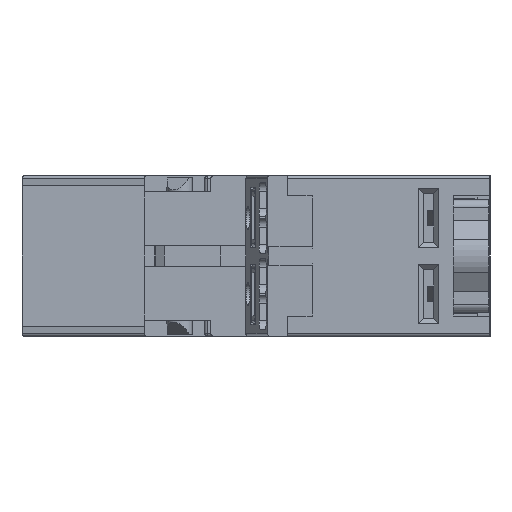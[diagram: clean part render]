
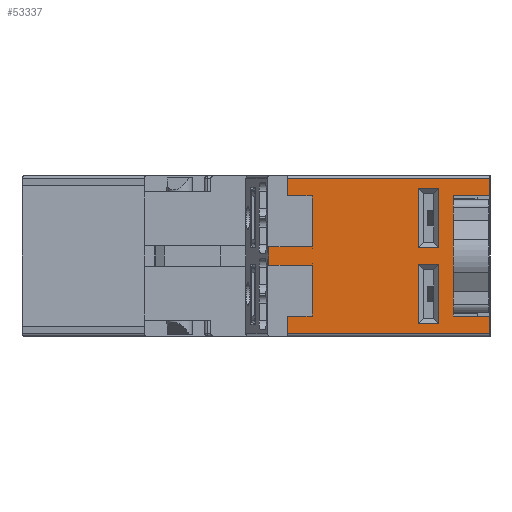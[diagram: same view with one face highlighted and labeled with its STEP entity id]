
A CAD part, left-side view. The second image highlights one B-rep face of the part: STEP entity #53337.
In plain terms, the highlighted planar face has unit normal (-1, 0, 0).
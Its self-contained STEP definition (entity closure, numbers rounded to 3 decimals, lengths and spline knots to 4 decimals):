
#403=FACE_BOUND('',#6901,.T.);
#404=FACE_BOUND('',#6902,.T.);
#4120=FACE_OUTER_BOUND('',#6900,.T.);
#6900=EDGE_LOOP('',(#43147,#43148,#43149,#43150,#43151,#43152,#43153,#43154,
#43155,#43156,#43157,#43158,#43159,#43160,#43161,#43162,#43163,#43164,#43165,
#43166));
#6901=EDGE_LOOP('',(#43167,#43168,#43169,#43170));
#6902=EDGE_LOOP('',(#43171,#43172,#43173,#43174));
#8910=LINE('',#74764,#14996);
#8915=LINE('',#74775,#15001);
#9019=LINE('',#75016,#15105);
#9024=LINE('',#75025,#15110);
#9025=LINE('',#75027,#15111);
#11631=LINE('',#80845,#17717);
#11634=LINE('',#80850,#17720);
#12491=LINE('',#83217,#18577);
#12736=LINE('',#84911,#18822);
#12741=LINE('',#84922,#18827);
#12742=LINE('',#84924,#18828);
#12743=LINE('',#84926,#18829);
#12744=LINE('',#84928,#18830);
#12745=LINE('',#84929,#18831);
#12746=LINE('',#84931,#18832);
#12747=LINE('',#84933,#18833);
#12748=LINE('',#84934,#18834);
#12749=LINE('',#84936,#18835);
#12750=LINE('',#84938,#18836);
#12751=LINE('',#84939,#18837);
#12752=LINE('',#84942,#18838);
#12753=LINE('',#84944,#18839);
#12754=LINE('',#84946,#18840);
#12755=LINE('',#84947,#18841);
#12756=LINE('',#84950,#18842);
#12757=LINE('',#84952,#18843);
#12758=LINE('',#84954,#18844);
#12759=LINE('',#84955,#18845);
#14996=VECTOR('',#60556,0.205);
#15001=VECTOR('',#60563,0.205);
#15105=VECTOR('',#60783,0.035);
#15110=VECTOR('',#60790,0.035);
#15111=VECTOR('',#60793,0.7);
#17717=VECTOR('',#65929,0.17);
#17720=VECTOR('',#65932,0.17);
#18577=VECTOR('',#67719,0.18);
#18822=VECTOR('',#68800,0.17);
#18827=VECTOR('',#68809,0.17);
#18828=VECTOR('',#68812,1.9886);
#18829=VECTOR('',#68815,1.9886);
#18830=VECTOR('',#68818,0.36);
#18831=VECTOR('',#68819,0.36);
#18832=VECTOR('',#68820,0.24);
#18833=VECTOR('',#68821,0.5);
#18834=VECTOR('',#68822,0.424);
#18835=VECTOR('',#68823,0.424);
#18836=VECTOR('',#68824,0.5);
#18837=VECTOR('',#68825,0.24);
#18838=VECTOR('',#68826,0.2);
#18839=VECTOR('',#68827,0.58);
#18840=VECTOR('',#68828,0.2);
#18841=VECTOR('',#68829,0.58);
#18842=VECTOR('',#68830,0.2);
#18843=VECTOR('',#68831,0.58);
#18844=VECTOR('',#68832,0.2);
#18845=VECTOR('',#68833,0.58);
#20830=VERTEX_POINT('',#74727);
#20843=VERTEX_POINT('',#74762);
#20844=VERTEX_POINT('',#74763);
#20849=VERTEX_POINT('',#74773);
#20928=VERTEX_POINT('',#75015);
#20931=VERTEX_POINT('',#75023);
#22877=VERTEX_POINT('',#80842);
#22878=VERTEX_POINT('',#80844);
#22879=VERTEX_POINT('',#80847);
#22880=VERTEX_POINT('',#80849);
#23684=VERTEX_POINT('',#83214);
#23685=VERTEX_POINT('',#83216);
#24031=VERTEX_POINT('',#84908);
#24032=VERTEX_POINT('',#84910);
#24034=VERTEX_POINT('',#84916);
#24036=VERTEX_POINT('',#84920);
#24037=VERTEX_POINT('',#84930);
#24038=VERTEX_POINT('',#84932);
#24039=VERTEX_POINT('',#84935);
#24040=VERTEX_POINT('',#84937);
#24041=VERTEX_POINT('',#84940);
#24042=VERTEX_POINT('',#84941);
#24043=VERTEX_POINT('',#84943);
#24044=VERTEX_POINT('',#84945);
#24045=VERTEX_POINT('',#84948);
#24046=VERTEX_POINT('',#84949);
#24047=VERTEX_POINT('',#84951);
#24048=VERTEX_POINT('',#84953);
#26044=EDGE_CURVE('',#20843,#20844,#8910,.T.);
#26050=EDGE_CURVE('',#20830,#20849,#8915,.T.);
#26173=EDGE_CURVE('',#20928,#20830,#9019,.T.);
#26178=EDGE_CURVE('',#20844,#20931,#9024,.T.);
#26179=EDGE_CURVE('',#20849,#20843,#9025,.T.);
#29089=EDGE_CURVE('',#22877,#22878,#11631,.T.);
#29092=EDGE_CURVE('',#22879,#22880,#11634,.T.);
#30173=EDGE_CURVE('',#23685,#23684,#12491,.T.);
#30731=EDGE_CURVE('',#24032,#24031,#12736,.T.);
#30737=EDGE_CURVE('',#24034,#24036,#12741,.T.);
#30738=EDGE_CURVE('',#22880,#24031,#12742,.T.);
#30739=EDGE_CURVE('',#24034,#22877,#12743,.T.);
#30740=EDGE_CURVE('',#22879,#20928,#12744,.T.);
#30741=EDGE_CURVE('',#20931,#22878,#12745,.T.);
#30742=EDGE_CURVE('',#24036,#24037,#12746,.T.);
#30743=EDGE_CURVE('',#24037,#24038,#12747,.T.);
#30744=EDGE_CURVE('',#24038,#23685,#12748,.T.);
#30745=EDGE_CURVE('',#23684,#24039,#12749,.T.);
#30746=EDGE_CURVE('',#24039,#24040,#12750,.T.);
#30747=EDGE_CURVE('',#24040,#24032,#12751,.T.);
#30748=EDGE_CURVE('',#24041,#24042,#12752,.T.);
#30749=EDGE_CURVE('',#24043,#24041,#12753,.T.);
#30750=EDGE_CURVE('',#24044,#24043,#12754,.T.);
#30751=EDGE_CURVE('',#24042,#24044,#12755,.T.);
#30752=EDGE_CURVE('',#24045,#24046,#12756,.T.);
#30753=EDGE_CURVE('',#24047,#24045,#12757,.T.);
#30754=EDGE_CURVE('',#24048,#24047,#12758,.T.);
#30755=EDGE_CURVE('',#24046,#24048,#12759,.T.);
#43147=ORIENTED_EDGE('',*,*,#30731,.T.);
#43148=ORIENTED_EDGE('',*,*,#30738,.F.);
#43149=ORIENTED_EDGE('',*,*,#29092,.F.);
#43150=ORIENTED_EDGE('',*,*,#30740,.T.);
#43151=ORIENTED_EDGE('',*,*,#26173,.T.);
#43152=ORIENTED_EDGE('',*,*,#26050,.T.);
#43153=ORIENTED_EDGE('',*,*,#26179,.T.);
#43154=ORIENTED_EDGE('',*,*,#26044,.T.);
#43155=ORIENTED_EDGE('',*,*,#26178,.T.);
#43156=ORIENTED_EDGE('',*,*,#30741,.T.);
#43157=ORIENTED_EDGE('',*,*,#29089,.F.);
#43158=ORIENTED_EDGE('',*,*,#30739,.F.);
#43159=ORIENTED_EDGE('',*,*,#30737,.T.);
#43160=ORIENTED_EDGE('',*,*,#30742,.T.);
#43161=ORIENTED_EDGE('',*,*,#30743,.T.);
#43162=ORIENTED_EDGE('',*,*,#30744,.T.);
#43163=ORIENTED_EDGE('',*,*,#30173,.T.);
#43164=ORIENTED_EDGE('',*,*,#30745,.T.);
#43165=ORIENTED_EDGE('',*,*,#30746,.T.);
#43166=ORIENTED_EDGE('',*,*,#30747,.T.);
#43167=ORIENTED_EDGE('',*,*,#30748,.F.);
#43168=ORIENTED_EDGE('',*,*,#30749,.F.);
#43169=ORIENTED_EDGE('',*,*,#30750,.F.);
#43170=ORIENTED_EDGE('',*,*,#30751,.F.);
#43171=ORIENTED_EDGE('',*,*,#30752,.F.);
#43172=ORIENTED_EDGE('',*,*,#30753,.F.);
#43173=ORIENTED_EDGE('',*,*,#30754,.F.);
#43174=ORIENTED_EDGE('',*,*,#30755,.F.);
#48252=PLANE('',#56993);
#53337=ADVANCED_FACE('',(#4120,#403,#404),#48252,.T.);
#56993=AXIS2_PLACEMENT_3D('',#84927,#68816,#68817);
#60556=DIRECTION('',(0.,0.,1.));
#60563=DIRECTION('',(0.,0.,1.));
#60783=DIRECTION('',(0.,0.,1.));
#60790=DIRECTION('',(0.,0.,1.));
#60793=DIRECTION('',(0.,0.,1.));
#65929=DIRECTION('',(0.,0.,-1.));
#65932=DIRECTION('',(0.,0.,-1.));
#67719=DIRECTION('',(0.,0.,-1.));
#68800=DIRECTION('',(0.,0.,-1.));
#68809=DIRECTION('',(0.,0.,-1.));
#68812=DIRECTION('',(0.,1.,0.));
#68815=DIRECTION('',(0.,-1.,0.));
#68816=DIRECTION('center_axis',(-1.,0.,0.));
#68817=DIRECTION('ref_axis',(0.,1.,0.));
#68818=DIRECTION('',(0.,1.,0.));
#68819=DIRECTION('',(0.,-1.,0.));
#68820=DIRECTION('',(0.,-1.,0.));
#68821=DIRECTION('',(0.,0.,-1.));
#68822=DIRECTION('',(0.,1.,0.));
#68823=DIRECTION('',(0.,-1.,0.));
#68824=DIRECTION('',(0.,0.,-1.));
#68825=DIRECTION('',(0.,1.,0.));
#68826=DIRECTION('',(0.,-1.,0.));
#68827=DIRECTION('',(0.,0.,-1.));
#68828=DIRECTION('',(0.,1.,0.));
#68829=DIRECTION('',(0.,0.,1.));
#68830=DIRECTION('',(0.,-1.,0.));
#68831=DIRECTION('',(0.,0.,-1.));
#68832=DIRECTION('',(0.,1.,0.));
#68833=DIRECTION('',(0.,0.,1.));
#74727=CARTESIAN_POINT('',(0.,0.96,-0.555));
#74762=CARTESIAN_POINT('',(0.,0.96,0.35));
#74763=CARTESIAN_POINT('',(0.,0.96,0.555));
#74764=CARTESIAN_POINT('',(0.,0.96,0.1));
#74773=CARTESIAN_POINT('',(0.,0.96,-0.35));
#74775=CARTESIAN_POINT('',(0.,0.96,0.1));
#75015=CARTESIAN_POINT('',(0.,0.96,-0.59));
#75016=CARTESIAN_POINT('',(0.,0.96,0.1));
#75023=CARTESIAN_POINT('',(0.,0.96,0.59));
#75025=CARTESIAN_POINT('',(0.,0.96,0.1));
#75027=CARTESIAN_POINT('',(0.,0.96,0.1));
#80842=CARTESIAN_POINT('',(0.,0.6,0.76));
#80844=CARTESIAN_POINT('',(0.,0.6,0.59));
#80845=CARTESIAN_POINT('',(0.,0.6,0.79));
#80847=CARTESIAN_POINT('',(0.,0.6,-0.59));
#80849=CARTESIAN_POINT('',(0.,0.6,-0.76));
#80850=CARTESIAN_POINT('',(0.,0.6,0.79));
#83214=CARTESIAN_POINT('',(0.,2.7725,-0.09));
#83216=CARTESIAN_POINT('',(0.,2.7725,0.09));
#83217=CARTESIAN_POINT('',(0.,2.7725,0.79));
#84908=CARTESIAN_POINT('',(0.,2.5886,-0.76));
#84910=CARTESIAN_POINT('',(0.,2.5886,-0.59));
#84911=CARTESIAN_POINT('',(0.,2.5886,0.1));
#84916=CARTESIAN_POINT('',(0.,2.5886,0.76));
#84920=CARTESIAN_POINT('',(0.,2.5886,0.59));
#84922=CARTESIAN_POINT('',(0.,2.5886,0.79));
#84924=CARTESIAN_POINT('',(0.,1.7136,-0.76));
#84926=CARTESIAN_POINT('',(0.,1.7136,0.76));
#84927=CARTESIAN_POINT('Origin',(0.,0.6,
0.79));
#84928=CARTESIAN_POINT('',(0.,0.6,-0.59));
#84929=CARTESIAN_POINT('',(0.,0.78,0.59));
#84930=CARTESIAN_POINT('',(0.,2.3486,0.59));
#84931=CARTESIAN_POINT('',(0.,1.6993,0.59));
#84932=CARTESIAN_POINT('',(0.,2.3486,0.09));
#84933=CARTESIAN_POINT('',(0.,2.3486,0.5558));
#84934=CARTESIAN_POINT('',(0.,1.6993,0.09));
#84935=CARTESIAN_POINT('',(0.,2.3486,-0.09));
#84936=CARTESIAN_POINT('',(0.,1.6993,-0.09));
#84937=CARTESIAN_POINT('',(0.,2.3486,-0.59));
#84938=CARTESIAN_POINT('',(0.,2.3486,0.2342));
#84939=CARTESIAN_POINT('',(0.,1.6993,-0.59));
#84940=CARTESIAN_POINT('',(0.,1.305,0.085));
#84941=CARTESIAN_POINT('',(0.,1.105,0.085));
#84942=CARTESIAN_POINT('',(0.,0.8775,0.085));
#84943=CARTESIAN_POINT('',(0.,1.305,0.665));
#84944=CARTESIAN_POINT('',(0.,1.305,0.4625));
#84945=CARTESIAN_POINT('',(0.,1.105,0.665));
#84946=CARTESIAN_POINT('',(0.,0.9275,0.665));
#84947=CARTESIAN_POINT('',(0.,1.105,0.7025));
#84948=CARTESIAN_POINT('',(0.,1.305,-0.665));
#84949=CARTESIAN_POINT('',(0.,1.105,-0.665));
#84950=CARTESIAN_POINT('',(0.,0.8775,-0.665));
#84951=CARTESIAN_POINT('',(0.,1.305,-0.085));
#84952=CARTESIAN_POINT('',(0.,1.305,0.0875));
#84953=CARTESIAN_POINT('',(0.,1.105,-0.085));
#84954=CARTESIAN_POINT('',(0.,0.9275,-0.085));
#84955=CARTESIAN_POINT('',(0.,1.105,0.3275));
